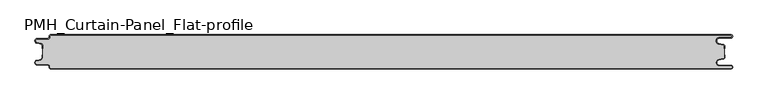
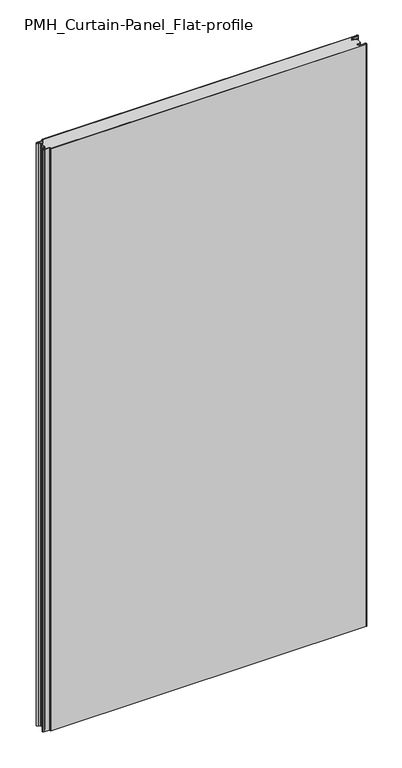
"""IFC4 building model written with IfcOpenShell, lengths in millimetres: plate geometry, PMH_Curtain-Panel_Flat-profile : ACH_PMH_Stone-wool-Panel_50M."""

from ifc_helpers import new_model, si_unit, point, frame, frame_2d, origin, origin_with_axes, place, context, project, spatial, polyline, circle_curve, trimmed, segment, composite_curve, outline, extrude, source, transform, mapped, element, save
from ifc_brep_helpers import plane_surface, cylinder_surface, revolved_surface, advanced_brep


def pmh_curtain_panel_flat_profile_34526b51(model_context):
    return source(origin(), model_context, "Body", "SolidModel", [
        advanced_brep(
        [(508.1, 0.0, 1945.7507136), (-487.4, 0.0, 1945.7507136), (-489.4, -2.0, 1945.7507136), (-489.4, -3.4, 1945.7507136), (-491.4, -5.4, 1945.7507136), (-506.9, -5.4, 1945.7507136), (-507.7098239, -12.5077322, 1945.7507136), (-501.5500979, -13.929817, 1945.7507136), (-500.0, -15.878557, 1945.7507136), (-500.0, -20.0, 1945.7507136), (-499.2, -20.0, 1945.7507136), (-499.2, -15.878557, 1945.7507136), (-501.370137, -13.1503208, 1945.7507136), (-507.529863, -11.728236, 1945.7507136), (-506.9, -6.2, 1945.7507136), (-491.4, -6.2, 1945.7507136), (-488.6, -3.4, 1945.7507136), (-488.6, -2.0, 1945.7507136), (-487.4, -0.8, 1945.7507136), (508.1, -0.8, 1945.7507136), (508.1, -4.2, 1945.7507136), (491.1, -4.2, 1945.7507136), (490.2664884, -13.7270771, 1945.7507136), (496.7125669, -14.8636953, 1945.7507136), (498.2, -16.6363492, 1945.7507136), (498.2, -20.0, 1945.7507136), (499.0, -20.0, 1945.7507136), (499.0, -16.6363492, 1945.7507136), (496.8514855, -14.0758491, 1945.7507136), (490.405407, -12.939231, 1945.7507136), (491.1, -5.0, 1945.7507136), (508.1, -5.0, 1945.7507136), (510.6, -2.5000002, 1945.7507136), (-487.4, 0.0, 0.0), (508.1, 0.0, 0.0), (510.6, -2.4999998, 0.0), (508.1, -5.0, 0.0), (491.1, -5.0, 0.0), (490.405407, -12.939231, 0.0), (496.8514855, -14.0758491, 0.0), (499.0, -16.6363492, 0.0), (499.0, -20.0, 0.0), (498.2, -20.0, 0.0), (498.2, -16.6363492, 0.0), (496.7125669, -14.8636953, 0.0), (490.2664884, -13.7270771, 0.0), (491.1, -4.2, 0.0), (508.1, -4.2, 0.0), (508.1, -0.8, 0.0), (-487.4, -0.8, 0.0), (-488.6, -2.0, 0.0), (-488.6, -3.4, 0.0), (-491.4, -6.2, 0.0), (-506.9, -6.2, 0.0), (-507.529863, -11.7282362, 0.0), (-501.370137, -13.150321, 0.0), (-499.2, -15.878557, 0.0), (-499.2, -20.0, 0.0), (-500.0, -20.0, 0.0), (-500.0, -15.878557, 0.0), (-501.5500978, -13.9298169, 0.0), (-507.7098239, -12.507732, 0.0), (-506.9, -5.4, 0.0), (-491.4, -5.4, 0.0), (-489.4, -3.4, 0.0), (-489.4, -2.0, 0.0)],
        [
            (0, 1),
            (1, 2, circle_curve(frame((-487.4, -2.0, 1945.7507136), z_axis=(0.0, 0.0, 1.0), x_axis=(1.0, 0.0, 0.0)), 2.0)),
            (2, 3),
            (3, 4, circle_curve(frame((-491.4, -3.4, 1945.7507136), z_axis=(0.0, 0.0, -1.0), x_axis=(1.0, 0.0, 0.0)), 2.0)),
            (4, 5),
            (5, 6, circle_curve(frame((-506.9, -9.0, 1945.7507136), z_axis=(0.0, 0.0, 1.0), x_axis=(1.0, 0.0, 0.0)), 3.6)),
            (6, 7),
            (7, 8, circle_curve(frame((-502.0, -15.878557, 1945.7507136), z_axis=(0.0, 0.0, -1.0), x_axis=(1.0, 0.0, 0.0)), 2.0)),
            (8, 9),
            (9, 10),
            (10, 11),
            (11, 12, circle_curve(frame((-502.0, -15.878557, 1945.7507136), z_axis=(0.0, 0.0, 1.0), x_axis=(1.0, 0.0, 0.0)), 2.8)),
            (12, 13),
            (13, 14, circle_curve(frame((-506.9, -9.0, 1945.7507136), z_axis=(0.0, 0.0, -1.0), x_axis=(1.0, 0.0, 0.0)), 2.8)),
            (14, 15),
            (15, 16, circle_curve(frame((-491.4, -3.4, 1945.7507136), z_axis=(0.0, 0.0, 1.0), x_axis=(1.0, 0.0, 0.0)), 2.8)),
            (16, 17),
            (17, 18, circle_curve(frame((-487.4, -2.0, 1945.7507136), z_axis=(0.0, 0.0, -1.0), x_axis=(1.0, 0.0, 0.0)), 1.2)),
            (18, 19),
            (19, 20, circle_curve(frame((508.1, -2.5, 1945.7507136), z_axis=(0.0, 0.0, -1.0), x_axis=(1.0, 0.0, 0.0)), 1.7)),
            (20, 21),
            (21, 22, circle_curve(frame((491.1, -9.0, 1945.7507136), z_axis=(0.0, 0.0, 1.0), x_axis=(1.0, 0.0, 0.0)), 4.8)),
            (22, 23),
            (23, 24, circle_curve(frame((496.4, -16.6363492, 1945.7507136), z_axis=(0.0, 0.0, -1.0), x_axis=(1.0, 0.0, 0.0)), 1.8)),
            (24, 25),
            (25, 26),
            (26, 27),
            (27, 28, circle_curve(frame((496.4, -16.6363492, 1945.7507136), z_axis=(0.0, 0.0, 1.0), x_axis=(1.0, 0.0, 0.0)), 2.6)),
            (28, 29),
            (29, 30, circle_curve(frame((491.1, -9.0, 1945.7507136), z_axis=(0.0, 0.0, -1.0), x_axis=(1.0, 0.0, 0.0)), 4.0)),
            (30, 31),
            (31, 32, circle_curve(frame((508.1, -2.5, 1945.7507136), z_axis=(0.0, 0.0, 1.0), x_axis=(1.0, 0.0, 0.0)), 2.5)),
            (32, 0, circle_curve(frame((508.1, -2.5, 1945.7507136), z_axis=(0.0, 0.0, 1.0), x_axis=(1.0, 0.0, 0.0)), 2.5)),
            (33, 34),
            (34, 35, circle_curve(frame((508.1, -2.5, 0.0), z_axis=(0.0, 0.0, -1.0), x_axis=(1.0, 0.0, 0.0)), 2.5)),
            (35, 36, circle_curve(frame((508.1, -2.5, 0.0), z_axis=(0.0, 0.0, -1.0), x_axis=(1.0, 0.0, 0.0)), 2.5)),
            (36, 37),
            (37, 38, circle_curve(frame((491.1, -9.0, 0.0), z_axis=(0.0, 0.0, 1.0), x_axis=(1.0, 0.0, 0.0)), 4.0)),
            (38, 39),
            (39, 40, circle_curve(frame((496.4, -16.6363492, 0.0), z_axis=(0.0, 0.0, -1.0), x_axis=(1.0, 0.0, 0.0)), 2.6)),
            (40, 41),
            (41, 42),
            (42, 43),
            (43, 44, circle_curve(frame((496.4, -16.6363492, 0.0), z_axis=(0.0, 0.0, 1.0), x_axis=(1.0, 0.0, 0.0)), 1.8)),
            (44, 45),
            (45, 46, circle_curve(frame((491.1, -9.0, 0.0), z_axis=(0.0, 0.0, -1.0), x_axis=(1.0, 0.0, 0.0)), 4.8)),
            (46, 47),
            (47, 48, circle_curve(frame((508.1, -2.5, 0.0), z_axis=(0.0, 0.0, 1.0), x_axis=(1.0, 0.0, 0.0)), 1.7)),
            (48, 49),
            (49, 50, circle_curve(frame((-487.4, -2.0, 0.0), z_axis=(0.0, 0.0, 1.0), x_axis=(1.0, 0.0, 0.0)), 1.2)),
            (50, 51),
            (51, 52, circle_curve(frame((-491.4, -3.4, 0.0), z_axis=(0.0, 0.0, -1.0), x_axis=(1.0, 0.0, 0.0)), 2.8)),
            (52, 53),
            (53, 54, circle_curve(frame((-506.9, -9.0, 0.0), z_axis=(0.0, 0.0, 1.0), x_axis=(1.0, 0.0, 0.0)), 2.8)),
            (54, 55),
            (55, 56, circle_curve(frame((-502.0, -15.878557, 0.0), z_axis=(0.0, 0.0, -1.0), x_axis=(1.0, 0.0, 0.0)), 2.8)),
            (56, 57),
            (57, 58),
            (58, 59),
            (59, 60, circle_curve(frame((-502.0, -15.878557, 0.0), z_axis=(0.0, 0.0, 1.0), x_axis=(1.0, 0.0, 0.0)), 2.0)),
            (60, 61),
            (61, 62, circle_curve(frame((-506.9, -9.0, 0.0), z_axis=(0.0, 0.0, -1.0), x_axis=(1.0, 0.0, 0.0)), 3.6)),
            (62, 63),
            (63, 64, circle_curve(frame((-491.4, -3.4, 0.0), z_axis=(0.0, 0.0, 1.0), x_axis=(1.0, 0.0, 0.0)), 2.0)),
            (64, 65),
            (65, 33, circle_curve(frame((-487.4, -2.0, 0.0), z_axis=(0.0, 0.0, -1.0), x_axis=(1.0, 0.0, 0.0)), 2.0)),
            (1, 33),
            (65, 2),
            (64, 3),
            (63, 4),
            (62, 5),
            (61, 6),
            (60, 7),
            (59, 8),
            (58, 9),
            (57, 10),
            (56, 11),
            (55, 12),
            (54, 13),
            (53, 14),
            (52, 15),
            (51, 16),
            (50, 17),
            (49, 18),
            (48, 19),
            (47, 20),
            (46, 21),
            (45, 22),
            (44, 23),
            (43, 24),
            (42, 25),
            (41, 26),
            (40, 27),
            (39, 28),
            (38, 29),
            (37, 30),
            (36, 31),
            (34, 0),
        ],
        [
            plane_surface(frame((-500.0, 0.0, 1945.7507136), z_axis=(0.0, 0.0, 1.0), x_axis=(0.0, 1.0, 0.0))),
            plane_surface(frame((-500.0, 0.0, 0.0), z_axis=(0.0, 0.0, -1.0), x_axis=(0.0, 1.0, 0.0))),
            cylinder_surface(frame((-487.4, -2.0, 1945.7507136), z_axis=(0.0, 0.0, 1.0), x_axis=(1.0, 0.0, 0.0)), 2.0),
            plane_surface(frame((-489.4, -2.0, 1945.7507136), z_axis=(-1.0, 0.0, 0.0), x_axis=(0.0, 0.0, -1.0))),
            revolved_surface(polyline([(-489.4, -3.4, 0.0), (-489.4, -3.4, 1945.7507136)]), (-491.4, -3.4, 1945.7507136), (0.0, 0.0, -1.0)),
            plane_surface(frame((-491.4, -5.4, 1945.7507136), z_axis=(0.0, 1.0, 0.0), x_axis=(0.0, 0.0, -1.0))),
            cylinder_surface(frame((-506.9, -9.0, 1945.7507136), z_axis=(0.0, 0.0, 1.0), x_axis=(1.0, 0.0, 0.0)), 3.6),
            plane_surface(frame((-507.7098239, -12.507732, 1945.7507136), z_axis=(-0.2249510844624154, -0.9743700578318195, 0.0), x_axis=(0.0, 0.0, -1.0))),
            revolved_surface(polyline([(-500.0, -15.878557, 0.0), (-500.0, -15.878557, 1945.7507136)]), (-502.0, -15.878557, 1945.7507136), (0.0, 0.0, -1.0)),
            plane_surface(frame((-500.0, -15.878557, 1945.7507136), z_axis=(-1.0, 0.0, 0.0), x_axis=(0.0, 0.0, -1.0))),
            plane_surface(frame((-500.0, -20.0, 1945.7507136), z_axis=(0.0, -1.0, 0.0), x_axis=(0.0, 0.0, -1.0))),
            plane_surface(frame((-499.2, -20.0, 1945.7507136), z_axis=(1.0, 0.0, 0.0), x_axis=(0.0, 0.0, -1.0))),
            cylinder_surface(frame((-502.0, -15.878557, 1945.7507136), z_axis=(0.0, 0.0, 1.0), x_axis=(1.0, 0.0, 0.0)), 2.8),
            plane_surface(frame((-501.370137, -13.150321, 1945.7507136), z_axis=(0.22495108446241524, 0.9743700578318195, 0.0), x_axis=(0.0, 0.0, -1.0))),
            revolved_surface(polyline([(-504.09999999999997, -9.0, 0.0), (-504.09999999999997, -9.0, 1945.7507136)]), (-506.9, -9.0, 1945.7507136), (0.0, 0.0, -1.0)),
            plane_surface(frame((-506.9, -6.2, 1945.7507136), z_axis=(0.0, -1.0, 0.0), x_axis=(0.0, 0.0, -1.0))),
            cylinder_surface(frame((-491.4, -3.4, 1945.7507136), z_axis=(0.0, 0.0, 1.0), x_axis=(1.0, 0.0, 0.0)), 2.8),
            plane_surface(frame((-488.6, -3.4, 1945.7507136), z_axis=(1.0, 0.0, 0.0), x_axis=(0.0, 0.0, -1.0))),
            revolved_surface(polyline([(-486.2, -2.0, 0.0), (-486.2, -2.0, 1945.7507136)]), (-487.4, -2.0, 1945.7507136), (0.0, 0.0, -1.0)),
            plane_surface(frame((-487.4, -0.8, 1945.7507136), z_axis=(0.0, -1.0, 0.0), x_axis=(0.0, 0.0, -1.0))),
            revolved_surface(polyline([(509.8, -2.5, 0.0), (509.8, -2.5, 1945.7507136)]), (508.1, -2.5, 1945.7507136), (0.0, 0.0, -1.0)),
            plane_surface(frame((508.1, -4.2, 1945.7507136), z_axis=(0.0, 1.0, 0.0), x_axis=(0.0, 0.0, -1.0))),
            cylinder_surface(frame((491.1, -9.0, 1945.7507136), z_axis=(0.0, 0.0, 1.0), x_axis=(1.0, 0.0, 0.0)), 4.8),
            plane_surface(frame((490.2664884, -13.7270771, 1945.7507136), z_axis=(-0.17364826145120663, -0.984807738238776, 0.0), x_axis=(0.0, 0.0, -1.0))),
            revolved_surface(polyline([(498.2, -16.6363492, 0.0), (498.2, -16.6363492, 1945.7507136)]), (496.4, -16.6363492, 1945.7507136), (0.0, 0.0, -1.0)),
            plane_surface(frame((498.2, -16.6363492, 1945.7507136), z_axis=(-1.0, 0.0, 0.0), x_axis=(0.0, 0.0, -1.0))),
            plane_surface(frame((498.2, -20.0, 1945.7507136), z_axis=(0.0, -1.0, 0.0), x_axis=(0.0, 0.0, -1.0))),
            plane_surface(frame((499.0, -20.0, 1945.7507136), z_axis=(1.0, 0.0, 0.0), x_axis=(0.0, 0.0, -1.0))),
            cylinder_surface(frame((496.4, -16.6363492, 1945.7507136), z_axis=(0.0, 0.0, 1.0), x_axis=(1.0, 0.0, 0.0)), 2.6),
            plane_surface(frame((496.8514855, -14.0758491, 1945.7507136), z_axis=(0.17364826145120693, 0.9848077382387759, 0.0), x_axis=(0.0, 0.0, -1.0))),
            revolved_surface(polyline([(495.1, -9.0, 0.0), (495.1, -9.0, 1945.7507136)]), (491.1, -9.0, 1945.7507136), (0.0, 0.0, -1.0)),
            plane_surface(frame((491.1, -5.0, 1945.7507136), z_axis=(0.0, -1.0, 0.0), x_axis=(0.0, 0.0, -1.0))),
            cylinder_surface(frame((508.1, -2.5, 1945.7507136), z_axis=(0.0, 0.0, 1.0), x_axis=(1.0, 0.0, 0.0)), 2.5),
            plane_surface(frame((490.5783588, 0.0, 1945.7507136), z_axis=(0.0, 1.0, 0.0), x_axis=(0.0, 0.0, -1.0))),
        ],
        [
            (0, [[1, 2, 3, 4, 5, 6, 7, 8, 9, 10, 11, 12, 13, 14, 15, 16, 17, 18, 19, 20, 21, 22, 23, 24, 25, 26, 27, 28, 29, 30, 31, 32, 33]]),
            (1, [[34, 35, 36, 37, 38, 39, 40, 41, 42, 43, 44, 45, 46, 47, 48, 49, 50, 51, 52, 53, 54, 55, 56, 57, 58, 59, 60, 61, 62, 63, 64, 65, 66]]),
            (2, [[-2, 67, -66, 68]]),
            (3, [[-3, -68, -65, 69]]),
            (4, [[-4, -69, -64, 70]]),
            (5, [[-5, -70, -63, 71]]),
            (6, [[-6, -71, -62, 72]]),
            (7, [[-7, -72, -61, 73]]),
            (8, [[-8, -73, -60, 74]]),
            (9, [[-9, -74, -59, 75]]),
            (10, [[-10, -75, -58, 76]]),
            (11, [[-11, -76, -57, 77]]),
            (12, [[-12, -77, -56, 78]]),
            (13, [[-13, -78, -55, 79]]),
            (14, [[-14, -79, -54, 80]]),
            (15, [[-15, -80, -53, 81]]),
            (16, [[-16, -81, -52, 82]]),
            (17, [[-17, -82, -51, 83]]),
            (18, [[-18, -83, -50, 84]]),
            (19, [[-19, -84, -49, 85]]),
            (20, [[-20, -85, -48, 86]]),
            (21, [[-21, -86, -47, 87]]),
            (22, [[-22, -87, -46, 88]]),
            (23, [[-23, -88, -45, 89]]),
            (24, [[-24, -89, -44, 90]]),
            (25, [[-25, -90, -43, 91]]),
            (26, [[-26, -91, -42, 92]]),
            (27, [[-27, -92, -41, 93]]),
            (28, [[-28, -93, -40, 94]]),
            (29, [[-29, -94, -39, 95]]),
            (30, [[-30, -95, -38, 96]]),
            (31, [[-31, -96, -37, 97]]),
            (32, [[-97, -36, -35, 98, -33, -32]]),
            (33, [[-1, -98, -34, -67]]),
        ],
    ),
        extrude(outline(composite_curve([segment(polyline([(-499.2, -34.1214426), (-499.2, -15.8785573)]), True, "CONTINUOUS"), segment(trimmed(circle_curve(frame_2d((-502.0, -15.8785573)), 2.8), [point((-499.2, -15.8785573))], [point((-501.370137, -13.1503212))], True, "CARTESIAN"), True, "CONTINUOUS"), segment(polyline([(-501.370137, -13.1503212), (-507.5298631, -11.7282362)]), True, "CONTINUOUS"), segment(trimmed(circle_curve(frame_2d((-506.9, -9.0)), 2.8), [point((-507.5298631, -11.7282362))], [point((-506.9, -6.2))], False, "CARTESIAN"), True, "CONTINUOUS"), segment(polyline([(-506.9, -6.2), (-491.4000001, -6.2)]), True, "CONTINUOUS"), segment(trimmed(circle_curve(frame_2d((-491.4000001, -3.4)), 2.8), [point((-491.4000001, -6.2))], [point((-488.6000001, -3.4))], True, "CARTESIAN"), True, "CONTINUOUS"), segment(polyline([(-488.6000001, -3.4), (-488.6000001, -2.0)]), True, "CONTINUOUS"), segment(trimmed(circle_curve(frame_2d((-487.4000001, -2.0)), 1.2), [point((-488.6000001, -2.0))], [point((-487.4000001, -0.8))], False, "CARTESIAN"), True, "CONTINUOUS"), segment(polyline([(-487.4000001, -0.8), (508.1, -0.8)]), True, "CONTINUOUS"), segment(trimmed(circle_curve(frame_2d((508.1, -2.5)), 1.7), [point((508.1, -0.8))], [point((508.1, -4.2))], False, "CARTESIAN"), True, "CONTINUOUS"), segment(polyline([(508.1, -4.2), (491.1, -4.2)]), True, "CONTINUOUS"), segment(trimmed(circle_curve(frame_2d((491.1, -9.0)), 4.8), [point((491.1, -4.2))], [point((490.2664883, -13.7270771))], True, "CARTESIAN"), True, "CONTINUOUS"), segment(polyline([(490.2664883, -13.7270771), (496.7125668, -14.8636953)]), True, "CONTINUOUS"), segment(trimmed(circle_curve(frame_2d((496.4, -16.6363492)), 1.8), [point((496.7125668, -14.8636953))], [point((498.2, -16.6363492))], False, "CARTESIAN"), True, "CONTINUOUS"), segment(polyline([(498.2, -16.6363492), (498.2, -33.3636508)]), True, "CONTINUOUS"), segment(trimmed(circle_curve(frame_2d((496.4, -33.3636508)), 1.8), [point((498.2, -33.3636508))], [point((496.7125668, -35.1363047))], False, "CARTESIAN"), True, "CONTINUOUS"), segment(polyline([(496.7125668, -35.1363047), (490.2664883, -36.2729229)]), True, "CONTINUOUS"), segment(trimmed(circle_curve(frame_2d((491.1, -41.0)), 4.8), [point((490.2664883, -36.2729229))], [point((491.1, -45.8))], True, "CARTESIAN"), True, "CONTINUOUS"), segment(polyline([(491.1, -45.8), (508.1, -45.8)]), True, "CONTINUOUS"), segment(trimmed(circle_curve(frame_2d((508.1, -47.5)), 1.7), [point((508.1, -45.8))], [point((508.1, -49.2))], False, "CARTESIAN"), True, "CONTINUOUS"), segment(polyline([(508.1, -49.2), (-487.4000001, -49.2)]), True, "CONTINUOUS"), segment(trimmed(circle_curve(frame_2d((-487.4000001, -48.0)), 1.2), [point((-487.4000001, -49.2))], [point((-488.6000001, -48.0))], False, "CARTESIAN"), True, "CONTINUOUS"), segment(polyline([(-488.6000001, -48.0), (-488.6000001, -46.6)]), True, "CONTINUOUS"), segment(trimmed(circle_curve(frame_2d((-491.4000001, -46.6)), 2.8), [point((-488.6000001, -46.6))], [point((-491.4000001, -43.8))], True, "CARTESIAN"), True, "CONTINUOUS"), segment(polyline([(-491.4000001, -43.8), (-506.9, -43.8)]), True, "CONTINUOUS"), segment(trimmed(circle_curve(frame_2d((-506.9, -41.0)), 2.8), [point((-506.9, -43.8))], [point((-507.5298631, -38.2717638))], False, "CARTESIAN"), True, "CONTINUOUS"), segment(polyline([(-507.5298631, -38.2717638), (-501.370137, -36.8496788)]), True, "CONTINUOUS"), segment(trimmed(circle_curve(frame_2d((-502.0, -34.1214426)), 2.8), [point((-501.370137, -36.8496788))], [point((-499.2, -34.1214426))], True, "CARTESIAN"), True, "CONTINUOUS")], self_intersect=False)), origin_with_axes(), (0.0, 0.0, 1.0), 1945.7507136),
        advanced_brep(
        [(-487.4, -50.0, 1945.7507136), (508.1, -50.0, 1945.7507136), (510.6, -47.5000002, 1945.7507136), (508.1, -45.0, 1945.7507136), (491.1, -45.0, 1945.7507136), (490.405407, -37.060769, 1945.7507136), (496.8514855, -35.9241509, 1945.7507136), (499.0, -33.3636508, 1945.7507136), (499.0, -30.0, 1945.7507136), (498.2, -30.0, 1945.7507136), (498.2, -33.3636508, 1945.7507136), (496.7125669, -35.1363047, 1945.7507136), (490.2664884, -36.2729229, 1945.7507136), (491.1, -45.8, 1945.7507136), (508.1, -45.8, 1945.7507136), (508.1, -49.2, 1945.7507136), (-487.4, -49.2, 1945.7507136), (-488.6, -48.0, 1945.7507136), (-488.6, -46.6, 1945.7507136), (-491.4, -43.8, 1945.7507136), (-506.9, -43.8, 1945.7507136), (-507.529863, -38.2717638, 1945.7507136), (-501.370137, -36.849679, 1945.7507136), (-499.2, -34.121443, 1945.7507136), (-499.2, -30.0, 1945.7507136), (-500.0, -30.0, 1945.7507136), (-500.0, -34.121443, 1945.7507136), (-501.5500978, -36.0701831, 1945.7507136), (-507.7098239, -37.492268, 1945.7507136), (-506.9, -44.6, 1945.7507136), (-491.4, -44.6, 1945.7507136), (-489.4, -46.6, 1945.7507136), (-489.4, -48.0, 1945.7507136), (508.1, -50.0, 0.0), (-487.4, -50.0, 0.0), (-489.4, -48.0, 0.0), (-489.4, -46.6, 0.0), (-491.4, -44.6, 0.0), (-506.9, -44.6, 0.0), (-507.7098239, -37.4922678, 0.0), (-501.5500979, -36.070183, 0.0), (-500.0, -34.121443, 0.0), (-500.0, -30.0, 0.0), (-499.2, -30.0, 0.0), (-499.2, -34.121443, 0.0), (-501.370137, -36.8496792, 0.0), (-507.529863, -38.271764, 0.0), (-506.9, -43.8, 0.0), (-491.4, -43.8, 0.0), (-488.6, -46.6, 0.0), (-488.6, -48.0, 0.0), (-487.4, -49.2, 0.0), (508.1, -49.2, 0.0), (508.1, -45.8, 0.0), (491.1, -45.8, 0.0), (490.2664884, -36.2729229, 0.0), (496.7125669, -35.1363047, 0.0), (498.2, -33.3636508, 0.0), (498.2, -30.0, 0.0), (499.0, -30.0, 0.0), (499.0, -33.3636508, 0.0), (496.8514855, -35.9241509, 0.0), (490.405407, -37.060769, 0.0), (491.1, -45.0, 0.0), (508.1, -45.0, 0.0), (510.6, -47.4999998, 0.0)],
        [
            (0, 1),
            (1, 2, circle_curve(frame((508.1, -47.5, 1945.7507136), z_axis=(0.0, 0.0, 1.0), x_axis=(1.0, 0.0, 0.0)), 2.5)),
            (2, 3, circle_curve(frame((508.1, -47.5, 1945.7507136), z_axis=(0.0, 0.0, 1.0), x_axis=(1.0, 0.0, 0.0)), 2.5)),
            (3, 4),
            (4, 5, circle_curve(frame((491.1, -41.0, 1945.7507136), z_axis=(0.0, 0.0, -1.0), x_axis=(1.0, 0.0, 0.0)), 4.0)),
            (5, 6),
            (6, 7, circle_curve(frame((496.4, -33.3636508, 1945.7507136), z_axis=(0.0, 0.0, 1.0), x_axis=(1.0, 0.0, 0.0)), 2.6)),
            (7, 8),
            (8, 9),
            (9, 10),
            (10, 11, circle_curve(frame((496.4, -33.3636508, 1945.7507136), z_axis=(0.0, 0.0, -1.0), x_axis=(1.0, 0.0, 0.0)), 1.8)),
            (11, 12),
            (12, 13, circle_curve(frame((491.1, -41.0, 1945.7507136), z_axis=(0.0, 0.0, 1.0), x_axis=(1.0, 0.0, 0.0)), 4.8)),
            (13, 14),
            (14, 15, circle_curve(frame((508.1, -47.5, 1945.7507136), z_axis=(0.0, 0.0, -1.0), x_axis=(1.0, 0.0, 0.0)), 1.7)),
            (15, 16),
            (16, 17, circle_curve(frame((-487.4, -48.0, 1945.7507136), z_axis=(0.0, 0.0, -1.0), x_axis=(1.0, 0.0, 0.0)), 1.2)),
            (17, 18),
            (18, 19, circle_curve(frame((-491.4, -46.6, 1945.7507136), z_axis=(0.0, 0.0, 1.0), x_axis=(1.0, 0.0, 0.0)), 2.8)),
            (19, 20),
            (20, 21, circle_curve(frame((-506.9, -41.0, 1945.7507136), z_axis=(0.0, 0.0, -1.0), x_axis=(1.0, 0.0, 0.0)), 2.8)),
            (21, 22),
            (22, 23, circle_curve(frame((-502.0, -34.121443, 1945.7507136), z_axis=(0.0, 0.0, 1.0), x_axis=(1.0, 0.0, 0.0)), 2.8)),
            (23, 24),
            (24, 25),
            (25, 26),
            (26, 27, circle_curve(frame((-502.0, -34.121443, 1945.7507136), z_axis=(0.0, 0.0, -1.0), x_axis=(1.0, 0.0, 0.0)), 2.0)),
            (27, 28),
            (28, 29, circle_curve(frame((-506.9, -41.0, 1945.7507136), z_axis=(0.0, 0.0, 1.0), x_axis=(1.0, 0.0, 0.0)), 3.6)),
            (29, 30),
            (30, 31, circle_curve(frame((-491.4, -46.6, 1945.7507136), z_axis=(0.0, 0.0, -1.0), x_axis=(1.0, 0.0, 0.0)), 2.0)),
            (31, 32),
            (32, 0, circle_curve(frame((-487.4, -48.0, 1945.7507136), z_axis=(0.0, 0.0, 1.0), x_axis=(1.0, 0.0, 0.0)), 2.0)),
            (33, 34),
            (34, 35, circle_curve(frame((-487.4, -48.0, 0.0), z_axis=(0.0, 0.0, -1.0), x_axis=(1.0, 0.0, 0.0)), 2.0)),
            (35, 36),
            (36, 37, circle_curve(frame((-491.4, -46.6, 0.0), z_axis=(0.0, 0.0, 1.0), x_axis=(1.0, 0.0, 0.0)), 2.0)),
            (37, 38),
            (38, 39, circle_curve(frame((-506.9, -41.0, 0.0), z_axis=(0.0, 0.0, -1.0), x_axis=(1.0, 0.0, 0.0)), 3.6)),
            (39, 40),
            (40, 41, circle_curve(frame((-502.0, -34.121443, 0.0), z_axis=(0.0, 0.0, 1.0), x_axis=(1.0, 0.0, 0.0)), 2.0)),
            (41, 42),
            (42, 43),
            (43, 44),
            (44, 45, circle_curve(frame((-502.0, -34.121443, 0.0), z_axis=(0.0, 0.0, -1.0), x_axis=(1.0, 0.0, 0.0)), 2.8)),
            (45, 46),
            (46, 47, circle_curve(frame((-506.9, -41.0, 0.0), z_axis=(0.0, 0.0, 1.0), x_axis=(1.0, 0.0, 0.0)), 2.8)),
            (47, 48),
            (48, 49, circle_curve(frame((-491.4, -46.6, 0.0), z_axis=(0.0, 0.0, -1.0), x_axis=(1.0, 0.0, 0.0)), 2.8)),
            (49, 50),
            (50, 51, circle_curve(frame((-487.4, -48.0, 0.0), z_axis=(0.0, 0.0, 1.0), x_axis=(1.0, 0.0, 0.0)), 1.2)),
            (51, 52),
            (52, 53, circle_curve(frame((508.1, -47.5, 0.0), z_axis=(0.0, 0.0, 1.0), x_axis=(1.0, 0.0, 0.0)), 1.7)),
            (53, 54),
            (54, 55, circle_curve(frame((491.1, -41.0, 0.0), z_axis=(0.0, 0.0, -1.0), x_axis=(1.0, 0.0, 0.0)), 4.8)),
            (55, 56),
            (56, 57, circle_curve(frame((496.4, -33.3636508, 0.0), z_axis=(0.0, 0.0, 1.0), x_axis=(1.0, 0.0, 0.0)), 1.8)),
            (57, 58),
            (58, 59),
            (59, 60),
            (60, 61, circle_curve(frame((496.4, -33.3636508, 0.0), z_axis=(0.0, 0.0, -1.0), x_axis=(1.0, 0.0, 0.0)), 2.6)),
            (61, 62),
            (62, 63, circle_curve(frame((491.1, -41.0, 0.0), z_axis=(0.0, 0.0, 1.0), x_axis=(1.0, 0.0, 0.0)), 4.0)),
            (63, 64),
            (64, 65, circle_curve(frame((508.1, -47.5, 0.0), z_axis=(0.0, 0.0, -1.0), x_axis=(1.0, 0.0, 0.0)), 2.5)),
            (65, 33, circle_curve(frame((508.1, -47.5, 0.0), z_axis=(0.0, 0.0, -1.0), x_axis=(1.0, 0.0, 0.0)), 2.5)),
            (0, 34),
            (33, 1),
            (64, 3),
            (63, 4),
            (62, 5),
            (61, 6),
            (60, 7),
            (59, 8),
            (58, 9),
            (57, 10),
            (56, 11),
            (55, 12),
            (54, 13),
            (53, 14),
            (52, 15),
            (51, 16),
            (50, 17),
            (49, 18),
            (48, 19),
            (47, 20),
            (46, 21),
            (45, 22),
            (44, 23),
            (43, 24),
            (42, 25),
            (41, 26),
            (40, 27),
            (39, 28),
            (38, 29),
            (37, 30),
            (36, 31),
            (35, 32),
        ],
        [
            plane_surface(frame((-500.0, -50.0, 1945.7507136), z_axis=(0.0, 0.0, 1.0), x_axis=(0.0, 1.0, 0.0))),
            plane_surface(frame((-500.0, -50.0, 0.0), z_axis=(0.0, 0.0, -1.0), x_axis=(0.0, 1.0, 0.0))),
            plane_surface(frame((490.5783588, -50.0, 1945.7507136), z_axis=(0.0, -1.0, 0.0), x_axis=(0.0, 0.0, -1.0))),
            cylinder_surface(frame((508.1, -47.5, 1945.7507136), z_axis=(0.0, 0.0, 1.0), x_axis=(1.0, 0.0, 0.0)), 2.5),
            plane_surface(frame((508.1, -45.0, 1945.7507136), z_axis=(0.0, 1.0, 0.0), x_axis=(0.0, 0.0, -1.0))),
            revolved_surface(polyline([(495.1, -41.0, 0.0), (495.1, -41.0, 1945.7507136)]), (491.1, -41.0, 1945.7507136), (0.0, 0.0, -1.0)),
            plane_surface(frame((490.405407, -37.060769, 1945.7507136), z_axis=(0.17364826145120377, -0.9848077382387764, 0.0), x_axis=(0.0, 0.0, -1.0))),
            cylinder_surface(frame((496.4, -33.3636508, 1945.7507136), z_axis=(0.0, 0.0, 1.0), x_axis=(1.0, 0.0, 0.0)), 2.6),
            plane_surface(frame((499.0, -33.3636508, 1945.7507136), z_axis=(1.0, 0.0, 0.0), x_axis=(0.0, 0.0, -1.0))),
            plane_surface(frame((499.0, -30.0, 1945.7507136), z_axis=(0.0, 1.0, 0.0), x_axis=(0.0, 0.0, -1.0))),
            plane_surface(frame((498.2, -30.0, 1945.7507136), z_axis=(-1.0, 0.0, 0.0), x_axis=(0.0, 0.0, -1.0))),
            revolved_surface(polyline([(498.2, -33.3636508, 0.0), (498.2, -33.3636508, 1945.7507136)]), (496.4, -33.3636508, 1945.7507136), (0.0, 0.0, -1.0)),
            plane_surface(frame((496.7125669, -35.1363047, 1945.7507136), z_axis=(-0.17364826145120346, 0.9848077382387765, 0.0), x_axis=(0.0, 0.0, -1.0))),
            cylinder_surface(frame((491.1, -41.0, 1945.7507136), z_axis=(0.0, 0.0, 1.0), x_axis=(1.0, 0.0, 0.0)), 4.8),
            plane_surface(frame((491.1, -45.8, 1945.7507136), z_axis=(0.0, -1.0, 0.0), x_axis=(0.0, 0.0, -1.0))),
            revolved_surface(polyline([(509.8, -47.5, 0.0), (509.8, -47.5, 1945.7507136)]), (508.1, -47.5, 1945.7507136), (0.0, 0.0, -1.0)),
            plane_surface(frame((508.1, -49.2, 1945.7507136), z_axis=(0.0, 1.0, 0.0), x_axis=(0.0, 0.0, -1.0))),
            revolved_surface(polyline([(-486.2, -48.0, 0.0), (-486.2, -48.0, 1945.7507136)]), (-487.4, -48.0, 1945.7507136), (0.0, 0.0, -1.0)),
            plane_surface(frame((-488.6, -48.0, 1945.7507136), z_axis=(1.0, 0.0, 0.0), x_axis=(0.0, 0.0, -1.0))),
            cylinder_surface(frame((-491.4, -46.6, 1945.7507136), z_axis=(0.0, 0.0, 1.0), x_axis=(1.0, 0.0, 0.0)), 2.8),
            plane_surface(frame((-491.4, -43.8, 1945.7507136), z_axis=(0.0, 1.0, 0.0), x_axis=(0.0, 0.0, -1.0))),
            revolved_surface(polyline([(-504.09999999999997, -41.0, 0.0), (-504.09999999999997, -41.0, 1945.7507136)]), (-506.9, -41.0, 1945.7507136), (0.0, 0.0, -1.0)),
            plane_surface(frame((-507.529863, -38.271764, 1945.7507136), z_axis=(0.2249510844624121, -0.9743700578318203, 0.0), x_axis=(0.0, 0.0, -1.0))),
            cylinder_surface(frame((-502.0, -34.121443, 1945.7507136), z_axis=(0.0, 0.0, 1.0), x_axis=(1.0, 0.0, 0.0)), 2.8),
            plane_surface(frame((-499.2, -34.121443, 1945.7507136), z_axis=(1.0, 0.0, 0.0), x_axis=(0.0, 0.0, -1.0))),
            plane_surface(frame((-499.2, -30.0, 1945.7507136), z_axis=(0.0, 1.0, 0.0), x_axis=(0.0, 0.0, -1.0))),
            plane_surface(frame((-500.0, -30.0, 1945.7507136), z_axis=(-1.0, 0.0, 0.0), x_axis=(0.0, 0.0, -1.0))),
            revolved_surface(polyline([(-500.0, -34.121443, 0.0), (-500.0, -34.121443, 1945.7507136)]), (-502.0, -34.121443, 1945.7507136), (0.0, 0.0, -1.0)),
            plane_surface(frame((-501.5500979, -36.070183, 1945.7507136), z_axis=(-0.22495108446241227, 0.9743700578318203, 0.0), x_axis=(0.0, 0.0, -1.0))),
            cylinder_surface(frame((-506.9, -41.0, 1945.7507136), z_axis=(0.0, 0.0, 1.0), x_axis=(1.0, 0.0, 0.0)), 3.6),
            plane_surface(frame((-506.9, -44.6, 1945.7507136), z_axis=(0.0, -1.0, 0.0), x_axis=(0.0, 0.0, -1.0))),
            revolved_surface(polyline([(-489.4, -46.6, 0.0), (-489.4, -46.6, 1945.7507136)]), (-491.4, -46.6, 1945.7507136), (0.0, 0.0, -1.0)),
            plane_surface(frame((-489.4, -46.6, 1945.7507136), z_axis=(-1.0, 0.0, 0.0), x_axis=(0.0, 0.0, -1.0))),
            cylinder_surface(frame((-487.4, -48.0, 1945.7507136), z_axis=(0.0, 0.0, 1.0), x_axis=(1.0, 0.0, 0.0)), 2.0),
        ],
        [
            (0, [[1, 2, 3, 4, 5, 6, 7, 8, 9, 10, 11, 12, 13, 14, 15, 16, 17, 18, 19, 20, 21, 22, 23, 24, 25, 26, 27, 28, 29, 30, 31, 32, 33]]),
            (1, [[34, 35, 36, 37, 38, 39, 40, 41, 42, 43, 44, 45, 46, 47, 48, 49, 50, 51, 52, 53, 54, 55, 56, 57, 58, 59, 60, 61, 62, 63, 64, 65, 66]]),
            (2, [[-1, 67, -34, 68]]),
            (3, [[-68, -66, -65, 69, -3, -2]]),
            (4, [[-4, -69, -64, 70]]),
            (5, [[-5, -70, -63, 71]]),
            (6, [[-6, -71, -62, 72]]),
            (7, [[-7, -72, -61, 73]]),
            (8, [[-8, -73, -60, 74]]),
            (9, [[-9, -74, -59, 75]]),
            (10, [[-10, -75, -58, 76]]),
            (11, [[-11, -76, -57, 77]]),
            (12, [[-12, -77, -56, 78]]),
            (13, [[-13, -78, -55, 79]]),
            (14, [[-14, -79, -54, 80]]),
            (15, [[-15, -80, -53, 81]]),
            (16, [[-16, -81, -52, 82]]),
            (17, [[-17, -82, -51, 83]]),
            (18, [[-18, -83, -50, 84]]),
            (19, [[-19, -84, -49, 85]]),
            (20, [[-20, -85, -48, 86]]),
            (21, [[-21, -86, -47, 87]]),
            (22, [[-22, -87, -46, 88]]),
            (23, [[-23, -88, -45, 89]]),
            (24, [[-24, -89, -44, 90]]),
            (25, [[-25, -90, -43, 91]]),
            (26, [[-26, -91, -42, 92]]),
            (27, [[-27, -92, -41, 93]]),
            (28, [[-28, -93, -40, 94]]),
            (29, [[-29, -94, -39, 95]]),
            (30, [[-30, -95, -38, 96]]),
            (31, [[-31, -96, -37, 97]]),
            (32, [[-32, -97, -36, 98]]),
            (33, [[-33, -98, -35, -67]]),
        ],
    ),
    ])


if __name__ == "__main__":
    model = new_model("IFC4")
    model_context = context("Model", 3, world=origin())
    ifc_project = project(units=[si_unit("LENGTHUNIT", "METRE", prefix="MILLI")], contexts=[model_context])
    site = spatial("IfcSite", under=ifc_project)
    building = spatial("IfcBuilding", under=site)
    placement = place(None, origin())
    pmh_curtain_panel_flat_profile_shape = pmh_curtain_panel_flat_profile_34526b51(model_context)
    element("IfcPlate", 1, ObjectType="PMH_Curtain-Panel_Flat-profile : ACH_PMH_Stone-wool-Panel_50M", at=placement, inside=building, context=model_context, shape_type="MappedRepresentation", body=[
        mapped(pmh_curtain_panel_flat_profile_shape, transform((0.0, 0.0, 0.0), x_axis=(1.0, 0.0, 0.0), y_axis=(0.0, 1.0, 0.0), z_axis=(0.0, 0.0, 1.0))),
    ])
    save(model, "model.ifc")
